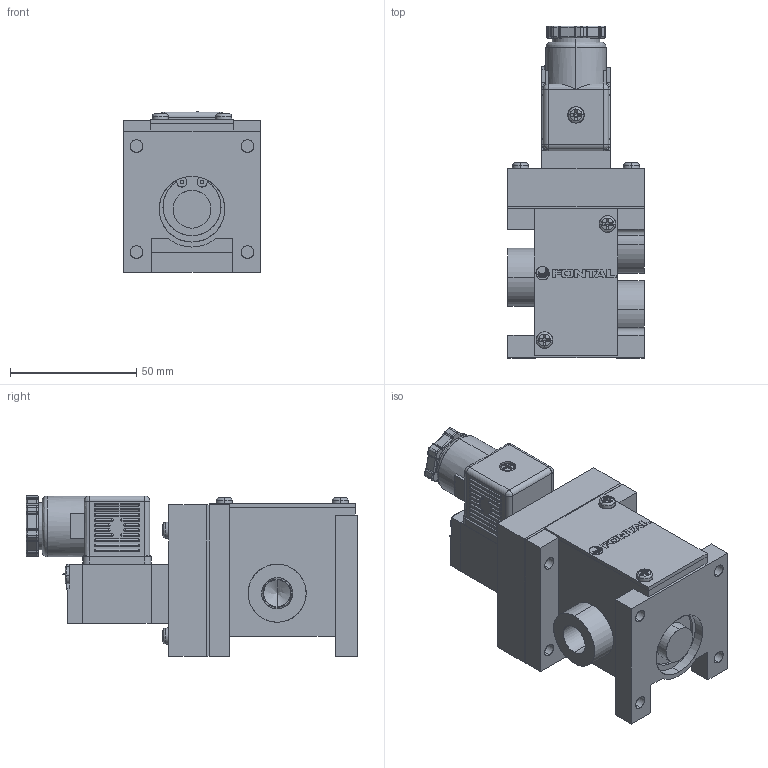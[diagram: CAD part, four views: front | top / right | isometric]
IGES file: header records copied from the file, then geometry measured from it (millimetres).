
Start section: SolidWorks IGES file using analytic representation for surfaces
Global section: file name: D:\Custom\3D繪製\PM\PM08\PMS2308#-02-#C#.IGS,1; native system: 5HSolidWorks 2014; preprocessor: SolidWorks 2014; author: Chieh_Lu; date: 151222.141031; units: millimetre
Bounding box: 54 x 131.5 x 63.64 mm (x, y, z)
Surface area: 65686.1 mm2 (no closed solid volume)
Topology: 0 solids, 0 shells, 994 faces, 9312 edges, 9162 vertices
Faces by surface type: revolution 527, bspline 467
